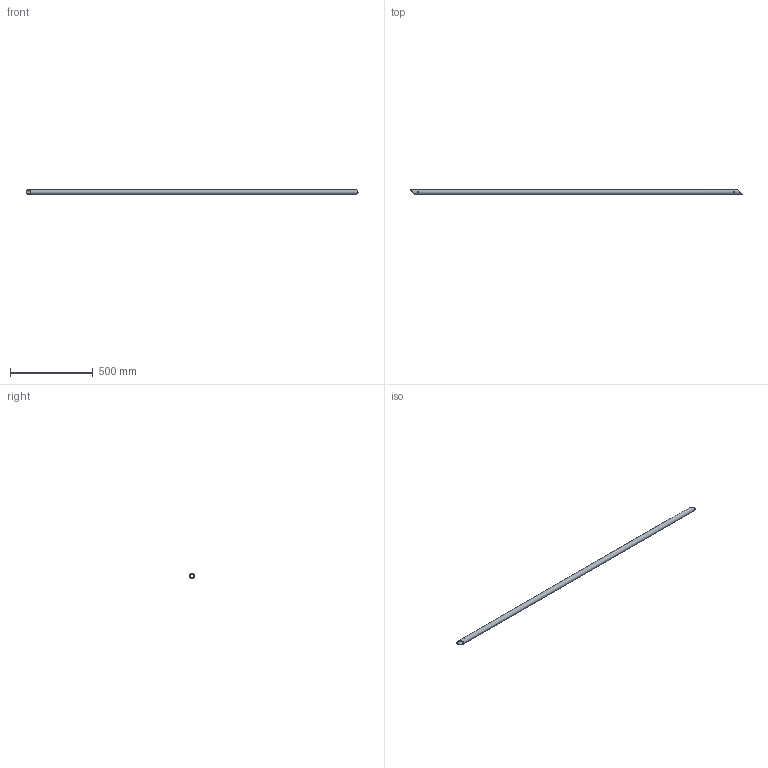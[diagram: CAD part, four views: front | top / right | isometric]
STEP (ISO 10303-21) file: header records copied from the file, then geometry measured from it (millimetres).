
FILE_DESCRIPTION(/* description */ (''),/* implementation_level */ '2;1');
FILE_NAME(/* name */ 'Pos108-Precisie buis 30x3-Aluminium-1st',/* time_stamp */ '2024-08-06T11:49:43+02:00',/* author */ (''),/* organization */ (''),/* preprocessor_version */ 'ST-DEVELOPER v16.5',/* originating_system */ 'HiCAD 2024 2901.2 Build 361',/* authorisation */ '');
FILE_SCHEMA (('AUTOMOTIVE_DESIGN { 1 0 10303 214 1 1 1 1 }'));
Length unit declared in the file: millimetre
Products named in the file (1): Pos108-Precisie buis 30x3-Aluminium-1st
Bounding box: 2009.96 x 29.96 x 29.98 mm (x, y, z)
Volume: 503730.2 mm3; surface area: 336635 mm2
Topology: 1 solids, 1 shells, 6 faces, 14 edges, 10 vertices
Faces by surface type: cylinder 4, plane 2
Full cylindrical faces by diameter (mm): 5 x2, 24 x1, 30 x1
Entity records: 274 total; most frequent: CARTESIAN_POINT 58, DIRECTION 20, PRESENTATION_STYLE_ASSIGNMENT 17, COLOUR_RGB 17, DRAUGHTING_PRE_DEFINED_CURVE_FONT 16, CURVE_STYLE 16, OVER_RIDING_STYLED_ITEM 16, ORIENTED_EDGE 16
